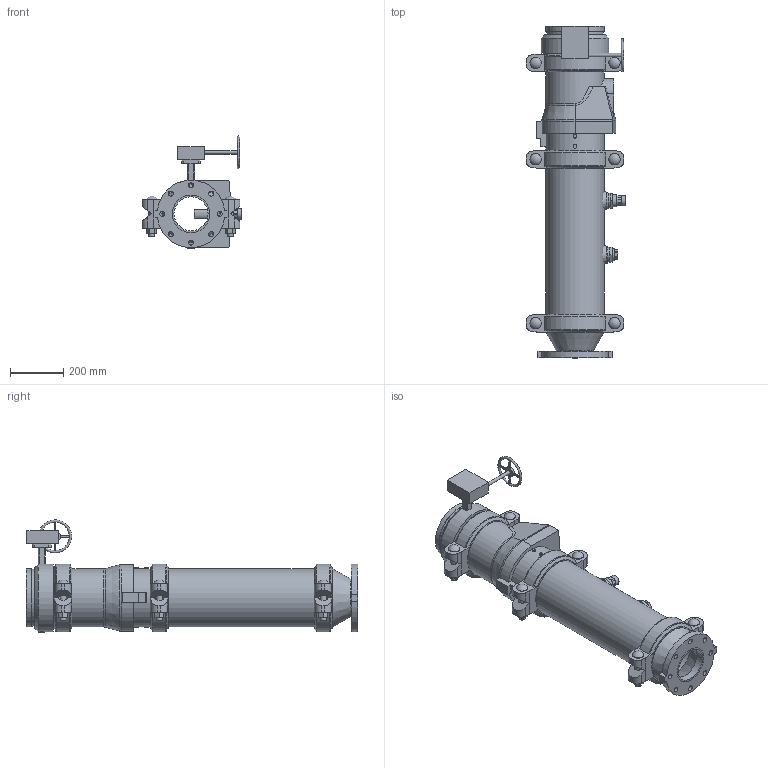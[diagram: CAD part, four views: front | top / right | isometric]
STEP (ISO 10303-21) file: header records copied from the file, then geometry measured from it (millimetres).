
FILE_DESCRIPTION(/* description */ ('VIC DVI PUMP DROP VERT S/380 (OGSxFLG) (S/924-0.75)','CAx-IF Rec.Pracs.---Representation and Presentation of Product Manufacturing Information (PMI)---4.0---2014-10-13'),/* implementation_level */ '2;1');
FILE_NAME(/* name */ 'C:\Users\Public\Documents\Victaulic.Temp\A765\Victaulic_IPS_Vertical DVI_CL 150_Series 380 (OGSxFLG)_924 (0.75)_08.0x05.0 (200x125).stp',/* time_stamp */ '2022-07-25T11:13:17+02:00',/* author */ ('Vjadhav'),/* organization */ ('Victaulic'),/* preprocessor_version */ 'ST-DEVELOPER v18',/* originating_system */ 'Autodesk Inventor 2020',/* authorisation */ '');
FILE_SCHEMA (('AP242_MANAGED_MODEL_BASED_3D_ENGINEERING_MIM_LF { 1 0 10303 442 1 1 4 }'));
Length unit declared in the file: inch
Products named in the file (9): 380_924 (0.75)-08.0x05.0; 741-05.0; 050-08.0x05.0; Pipe-08.0; 177N-08.0; 779-08.0; 923-04.0x0.75; 924-04.0x0.75; 761-08.0
Assembly tree (10 placements, depth 2):
  380_924 (0.75)-08.0x05.0
    741-05.0
    050-08.0x05.0
    177N-08.0  x3
    Pipe-08.0
    779-08.0
    923-04.0x0.75
    924-04.0x0.75
    761-08.0
Bounding box: 376.21 x 1249.43 x 422.39 mm (x, y, z)
Volume: 16828521.1 mm3; surface area: 2657690.8 mm2
Topology: 10 solids, 11 shells, 565 faces, 1510 edges, 1008 vertices
Faces by surface type: plane 339, cylinder 179, cone 20, torus 19, sphere 6, bspline 2
Full cylindrical faces by diameter (mm): 8.636 x4, 12.446 x1, 12.7 x1, 13.716 x4, 19.05 x8, 22.225 x6, 22.86 x1, 26.67 x2, 38.608 x1, 39.125 x1, 42.85 x6, 45.974 x4, 55.118 x1, 55.626 x2, 128.194 x1, 137.033 x1, 141.3 x3, 202.717 x4, 206.375 x3, 214.401 x7, 219.075 x19, 254 x1
Entity records: 13505 total; most frequent: CARTESIAN_POINT 2826, DIRECTION 2180, ORIENTED_EDGE 2016, EDGE_CURVE 1008, AXIS2_PLACEMENT_3D 830, VERTEX_POINT 680, LINE 520, VECTOR 520
